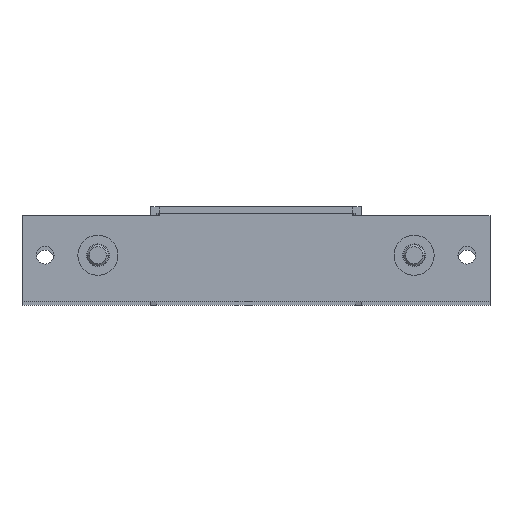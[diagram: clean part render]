
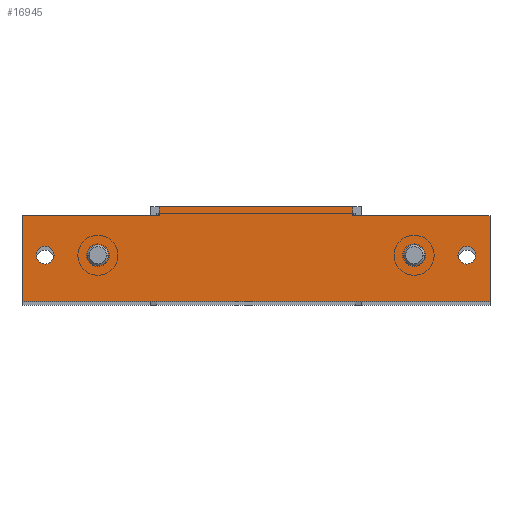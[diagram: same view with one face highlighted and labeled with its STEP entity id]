
A CAD part, top view. The second image highlights one B-rep face of the part: STEP entity #16945.
In plain terms, the highlighted planar face has unit normal (0, 0, 1).
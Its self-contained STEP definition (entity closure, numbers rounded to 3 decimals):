
#1738 = VERTEX_POINT('',#1739);
#1739 = CARTESIAN_POINT('',(-47.9,-11.5,248.5));
#1745 = EDGE_CURVE('',#1746,#1738,#1748,.T.);
#1746 = VERTEX_POINT('',#1747);
#1747 = CARTESIAN_POINT('',(-52.1,-11.5,248.5));
#1748 = CIRCLE('',#1749,2.1);
#1749 = AXIS2_PLACEMENT_3D('',#1750,#1751,#1752);
#1750 = CARTESIAN_POINT('',(-50.,-11.5,248.5));
#1751 = DIRECTION('',(0.,0.,1.));
#1752 = DIRECTION('',(1.,0.,-0.));
#1780 = VERTEX_POINT('',#1781);
#1781 = CARTESIAN_POINT('',(39.6,-11.5,248.5));
#1787 = EDGE_CURVE('',#1788,#1780,#1790,.T.);
#1788 = VERTEX_POINT('',#1789);
#1789 = CARTESIAN_POINT('',(35.4,-11.5,248.5));
#1790 = CIRCLE('',#1791,2.1);
#1791 = AXIS2_PLACEMENT_3D('',#1792,#1793,#1794);
#1792 = CARTESIAN_POINT('',(37.5,-11.5,248.5));
#1793 = DIRECTION('',(0.,0.,1.));
#1794 = DIRECTION('',(-1.,0.,0.));
#1822 = VERTEX_POINT('',#1823);
#1823 = CARTESIAN_POINT('',(52.1,-11.5,248.5));
#1829 = EDGE_CURVE('',#1830,#1822,#1832,.T.);
#1830 = VERTEX_POINT('',#1831);
#1831 = CARTESIAN_POINT('',(47.9,-11.5,248.5));
#1832 = CIRCLE('',#1833,2.1);
#1833 = AXIS2_PLACEMENT_3D('',#1834,#1835,#1836);
#1834 = CARTESIAN_POINT('',(50.,-11.5,248.5));
#1835 = DIRECTION('',(0.,0.,1.));
#1836 = DIRECTION('',(-1.,0.,0.));
#1864 = VERTEX_POINT('',#1865);
#1865 = CARTESIAN_POINT('',(-35.4,-11.5,248.5));
#1871 = EDGE_CURVE('',#1872,#1864,#1874,.T.);
#1872 = VERTEX_POINT('',#1873);
#1873 = CARTESIAN_POINT('',(-39.6,-11.5,248.5));
#1874 = CIRCLE('',#1875,2.1);
#1875 = AXIS2_PLACEMENT_3D('',#1876,#1877,#1878);
#1876 = CARTESIAN_POINT('',(-37.5,-11.5,248.5));
#1877 = DIRECTION('',(0.,0.,1.));
#1878 = DIRECTION('',(1.,0.,-0.));
#6995 = VERTEX_POINT('',#6996);
#6996 = CARTESIAN_POINT('',(-22.9,0.,248.5));
#7002 = EDGE_CURVE('',#7003,#6995,#7005,.T.);
#7003 = VERTEX_POINT('',#7004);
#7004 = CARTESIAN_POINT('',(22.9,0.,248.5));
#7005 = LINE('',#7006,#7007);
#7006 = CARTESIAN_POINT('',(-25.,0.,248.5));
#7007 = VECTOR('',#7008,1.);
#7008 = DIRECTION('',(-1.,0.,0.));
#16886 = VERTEX_POINT('',#16887);
#16887 = CARTESIAN_POINT('',(22.9,-2.1,248.5));
#16902 = EDGE_CURVE('',#16886,#7003,#16903,.T.);
#16903 = LINE('',#16904,#16905);
#16904 = CARTESIAN_POINT('',(22.9,-2.1,248.5));
#16905 = VECTOR('',#16906,1.);
#16906 = DIRECTION('',(-0.,1.,0.));
#16926 = VERTEX_POINT('',#16927);
#16927 = CARTESIAN_POINT('',(-22.9,-2.1,248.5));
#16933 = EDGE_CURVE('',#16926,#6995,#16934,.T.);
#16934 = LINE('',#16935,#16936);
#16935 = CARTESIAN_POINT('',(-22.9,0.,248.5));
#16936 = VECTOR('',#16937,1.);
#16937 = DIRECTION('',(0.,1.,0.));
#16945 = ADVANCED_FACE('',(#16946,#16956,#16966,#16976,#16986),#17029,
  .T.);
#16946 = FACE_BOUND('',#16947,.T.);
#16947 = EDGE_LOOP('',(#16948,#16955));
#16948 = ORIENTED_EDGE('',*,*,#16949,.F.);
#16949 = EDGE_CURVE('',#1738,#1746,#16950,.T.);
#16950 = CIRCLE('',#16951,2.1);
#16951 = AXIS2_PLACEMENT_3D('',#16952,#16953,#16954);
#16952 = CARTESIAN_POINT('',(-50.,-11.5,248.5));
#16953 = DIRECTION('',(0.,0.,1.));
#16954 = DIRECTION('',(1.,0.,-0.));
#16955 = ORIENTED_EDGE('',*,*,#1745,.F.);
#16956 = FACE_BOUND('',#16957,.T.);
#16957 = EDGE_LOOP('',(#16958,#16965));
#16958 = ORIENTED_EDGE('',*,*,#16959,.F.);
#16959 = EDGE_CURVE('',#1780,#1788,#16960,.T.);
#16960 = CIRCLE('',#16961,2.1);
#16961 = AXIS2_PLACEMENT_3D('',#16962,#16963,#16964);
#16962 = CARTESIAN_POINT('',(37.5,-11.5,248.5));
#16963 = DIRECTION('',(0.,0.,1.));
#16964 = DIRECTION('',(-1.,0.,0.));
#16965 = ORIENTED_EDGE('',*,*,#1787,.F.);
#16966 = FACE_BOUND('',#16967,.T.);
#16967 = EDGE_LOOP('',(#16968,#16975));
#16968 = ORIENTED_EDGE('',*,*,#16969,.F.);
#16969 = EDGE_CURVE('',#1822,#1830,#16970,.T.);
#16970 = CIRCLE('',#16971,2.1);
#16971 = AXIS2_PLACEMENT_3D('',#16972,#16973,#16974);
#16972 = CARTESIAN_POINT('',(50.,-11.5,248.5));
#16973 = DIRECTION('',(0.,0.,1.));
#16974 = DIRECTION('',(-1.,0.,0.));
#16975 = ORIENTED_EDGE('',*,*,#1829,.F.);
#16976 = FACE_BOUND('',#16977,.T.);
#16977 = EDGE_LOOP('',(#16978,#16985));
#16978 = ORIENTED_EDGE('',*,*,#16979,.F.);
#16979 = EDGE_CURVE('',#1864,#1872,#16980,.T.);
#16980 = CIRCLE('',#16981,2.1);
#16981 = AXIS2_PLACEMENT_3D('',#16982,#16983,#16984);
#16982 = CARTESIAN_POINT('',(-37.5,-11.5,248.5));
#16983 = DIRECTION('',(0.,0.,1.));
#16984 = DIRECTION('',(1.,0.,-0.));
#16985 = ORIENTED_EDGE('',*,*,#1871,.F.);
#16986 = FACE_BOUND('',#16987,.T.);
#16987 = EDGE_LOOP('',(#16988,#16998,#17006,#17012,#17013,#17014,#17015,
    #17023));
#16988 = ORIENTED_EDGE('',*,*,#16989,.F.);
#16989 = EDGE_CURVE('',#16990,#16992,#16994,.T.);
#16990 = VERTEX_POINT('',#16991);
#16991 = CARTESIAN_POINT('',(55.5,-22.5,248.5));
#16992 = VERTEX_POINT('',#16993);
#16993 = CARTESIAN_POINT('',(-55.5,-22.5,248.5));
#16994 = LINE('',#16995,#16996);
#16995 = CARTESIAN_POINT('',(-22.9,-22.5,248.5));
#16996 = VECTOR('',#16997,1.);
#16997 = DIRECTION('',(-1.,0.,-0.));
#16998 = ORIENTED_EDGE('',*,*,#16999,.F.);
#16999 = EDGE_CURVE('',#17000,#16990,#17002,.T.);
#17000 = VERTEX_POINT('',#17001);
#17001 = CARTESIAN_POINT('',(55.5,-2.1,248.5));
#17002 = LINE('',#17003,#17004);
#17003 = CARTESIAN_POINT('',(55.5,-19.5,248.5));
#17004 = VECTOR('',#17005,1.);
#17005 = DIRECTION('',(0.,-1.,0.));
#17006 = ORIENTED_EDGE('',*,*,#17007,.F.);
#17007 = EDGE_CURVE('',#16886,#17000,#17008,.T.);
#17008 = LINE('',#17009,#17010);
#17009 = CARTESIAN_POINT('',(22.9,-2.1,248.5));
#17010 = VECTOR('',#17011,1.);
#17011 = DIRECTION('',(1.,0.,0.));
#17012 = ORIENTED_EDGE('',*,*,#16902,.T.);
#17013 = ORIENTED_EDGE('',*,*,#7002,.T.);
#17014 = ORIENTED_EDGE('',*,*,#16933,.F.);
#17015 = ORIENTED_EDGE('',*,*,#17016,.T.);
#17016 = EDGE_CURVE('',#16926,#17017,#17019,.T.);
#17017 = VERTEX_POINT('',#17018);
#17018 = CARTESIAN_POINT('',(-55.5,-2.1,248.5));
#17019 = LINE('',#17020,#17021);
#17020 = CARTESIAN_POINT('',(-22.9,-2.1,248.5));
#17021 = VECTOR('',#17022,1.);
#17022 = DIRECTION('',(-1.,0.,0.));
#17023 = ORIENTED_EDGE('',*,*,#17024,.T.);
#17024 = EDGE_CURVE('',#17017,#16992,#17025,.T.);
#17025 = LINE('',#17026,#17027);
#17026 = CARTESIAN_POINT('',(-55.5,-19.5,248.5));
#17027 = VECTOR('',#17028,1.);
#17028 = DIRECTION('',(0.,-1.,-0.));
#17029 = PLANE('',#17030);
#17030 = AXIS2_PLACEMENT_3D('',#17031,#17032,#17033);
#17031 = CARTESIAN_POINT('',(0.,0.,
    248.5));
#17032 = DIRECTION('',(0.,0.,1.));
#17033 = DIRECTION('',(0.,-1.,0.));
